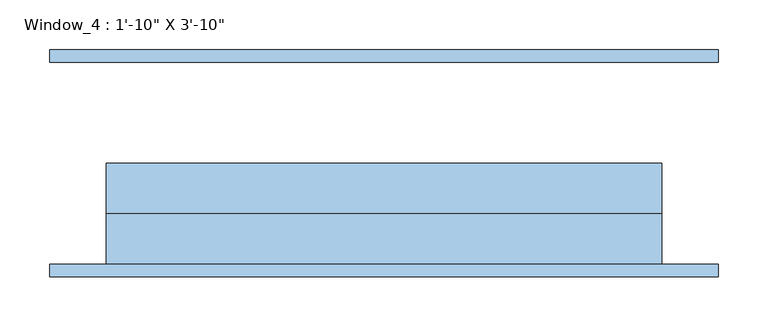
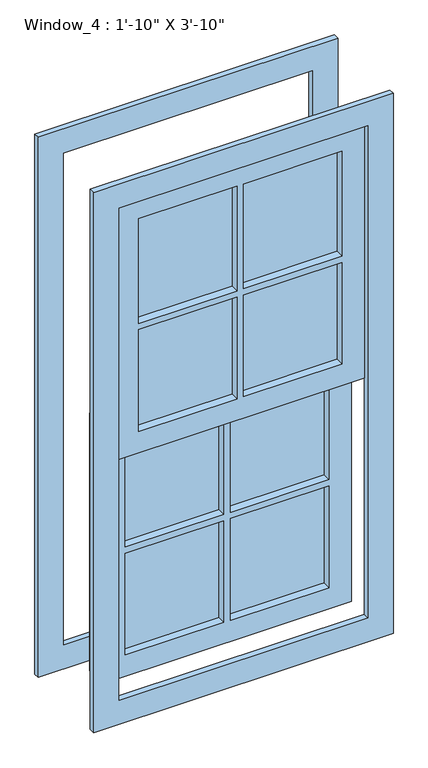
"""IFC4 building model written with IfcOpenShell, lengths in millimetres: window geometry."""

from ifc_helpers import new_model, si_unit, frame, origin, place, context, project, spatial, polyline, outline, extrude, source, transform, mapped, element, save


def window_3fe6f13e(model_context):
    return source(origin(), model_context, "Body", "SweptSolid", [
        extrude(outline(polyline([(228.6, -69.85), (228.6, -83.1353592), (7.540625, -83.1353592), (7.540625, -69.85), (228.6, -69.85)])), frame((0.0, 0.0, 1732.75625), z_axis=(0.0, 0.0, 1.0), x_axis=(1.0, 0.0, 0.0)), (0.0, 0.0, 1.0), 248.44375),
        extrude(outline(polyline([(-7.540625, -69.85), (-7.540625, -83.1353592), (-228.6, -83.1353592), (-228.6, -69.85), (-7.540625, -69.85)])), frame((0.0, 0.0, 1732.75625), z_axis=(0.0, 0.0, 1.0), x_axis=(1.0, 0.0, 0.0)), (0.0, 0.0, 1.0), 248.44375),
        extrude(outline(polyline([(228.6, -69.85), (228.6, -83.1353592), (7.540625, -83.1353592), (7.540625, -69.85), (228.6, -69.85)])), frame((0.0, 0.0, 1476.375), z_axis=(0.0, 0.0, 1.0), x_axis=(1.0, 0.0, 0.0)), (0.0, 0.0, 1.0), 241.3),
        extrude(outline(polyline([(-7.540625, -69.85), (-7.540625, -83.1353592), (-228.6, -83.1353592), (-228.6, -69.85), (-7.540625, -69.85)])), frame((0.0, 0.0, 1476.375), z_axis=(0.0, 0.0, 1.0), x_axis=(1.0, 0.0, 0.0)), (0.0, 0.0, 1.0), 241.3),
        extrude(outline(polyline([(2032.0, -279.4), (1425.575, -279.4), (1425.575, 279.4), (2032.0, 279.4), (2032.0, -279.4)]), holes=[polyline([(1981.2, 7.540625), (1981.2, 228.6), (1732.75625, 228.6), (1732.75625, 7.540625), (1981.2, 7.540625)]), polyline([(1476.375, 7.540625), (1717.675, 7.540625), (1717.675, 228.6), (1476.375, 228.6), (1476.375, 7.540625)]), polyline([(1732.75625, -228.6), (1981.2, -228.6), (1981.2, -7.540625), (1732.75625, -7.540625), (1732.75625, -228.6)]), polyline([(1476.375, -228.6), (1717.675, -228.6), (1717.675, -7.540625), (1476.375, -7.540625), (1476.375, -228.6)])]), frame((0.0, -101.6, 0.0), z_axis=(0.0, 1.0, 0.0), x_axis=(0.0, 0.0, 1.0)), (0.0, 0.0, 1.0), 50.8),
        extrude(outline(polyline([(7.540625, -31.75), (7.540625, -19.05), (228.6, -19.05), (228.6, -31.75), (7.540625, -31.75)])), frame((0.0, 0.0, 1170.78125), z_axis=(0.0, 0.0, 1.0), x_axis=(1.0, 0.0, 0.0)), (0.0, 0.0, 1.0), 254.79375),
        extrude(outline(polyline([(7.540625, -31.75), (7.540625, -19.05), (228.6, -19.05), (228.6, -31.75), (7.540625, -31.75)])), frame((0.0, 0.0, 914.4), z_axis=(0.0, 0.0, 1.0), x_axis=(1.0, 0.0, 0.0)), (0.0, 0.0, 1.0), 241.3),
        extrude(outline(polyline([(-228.6, -31.75), (-228.6, -19.05), (-7.540625, -19.05), (-7.540625, -31.75), (-228.6, -31.75)])), frame((0.0, 0.0, 1170.78125), z_axis=(0.0, 0.0, 1.0), x_axis=(1.0, 0.0, 0.0)), (0.0, 0.0, 1.0), 254.79375),
        extrude(outline(polyline([(-228.6, -31.75), (-228.6, -19.05), (-7.540625, -19.05), (-7.540625, -31.75), (-228.6, -31.75)])), frame((0.0, 0.0, 914.4), z_axis=(0.0, 0.0, 1.0), x_axis=(1.0, 0.0, 0.0)), (0.0, 0.0, 1.0), 241.3),
        extrude(outline(polyline([(1476.375, -279.4), (863.6, -279.4), (863.6, 279.4), (1476.375, 279.4), (1476.375, -279.4)]), holes=[polyline([(1170.78125, -228.6), (1425.575, -228.6), (1425.575, -7.540625), (1170.78125, -7.540625), (1170.78125, -228.6)]), polyline([(914.4, 7.540625), (1155.7, 7.540625), (1155.7, 228.6), (914.4, 228.6), (914.4, 7.540625)]), polyline([(914.4, -228.6), (1155.7, -228.6), (1155.7, -7.540625), (914.4, -7.540625), (914.4, -228.6)]), polyline([(1425.575, 7.540625), (1425.575, 228.6), (1170.78125, 228.6), (1170.78125, 7.540625), (1425.575, 7.540625)])]), frame((0.0, -50.8, 0.0), z_axis=(0.0, 1.0, 0.0), x_axis=(0.0, 0.0, 1.0)), (0.0, 0.0, 1.0), 50.8),
        extrude(outline(polyline([(806.45, 336.55), (2089.15, 336.55), (2089.15, -336.55), (806.45, -336.55), (806.45, 336.55)]), holes=[polyline([(863.6, 279.4), (863.6, -279.4), (2032.0, -279.4), (2032.0, 279.4), (863.6, 279.4)])]), frame((0.0, 101.6, 0.0), z_axis=(0.0, 1.0, 0.0), x_axis=(0.0, 0.0, 1.0)), (0.0, 0.0, 1.0), 12.7),
        extrude(outline(polyline([(806.45, 336.55), (2089.15, 336.55), (2089.15, -336.55), (806.45, -336.55), (806.45, 336.55)]), holes=[polyline([(863.6, 279.4), (863.6, -279.4), (2032.0, -279.4), (2032.0, 279.4), (863.6, 279.4)])]), frame((0.0, -114.3, 0.0), z_axis=(0.0, 1.0, 0.0), x_axis=(0.0, 0.0, 1.0)), (0.0, 0.0, 1.0), 12.7),
    ])


if __name__ == "__main__":
    model = new_model("IFC4")
    model_context = context("Model", 3, world=origin())
    ifc_project = project(units=[si_unit("LENGTHUNIT", "METRE", prefix="MILLI")], contexts=[model_context])
    site = spatial("IfcSite", under=ifc_project)
    building = spatial("IfcBuilding", under=site)
    placement = place(None, origin())
    window_shape = window_3fe6f13e(model_context)
    element("IfcWindow", 1, ObjectType="Window_4 : 1'-10\" X 3'-10\"", at=placement, inside=building, context=model_context, shape_type="MappedRepresentation", body=[
        mapped(window_shape, transform((0.0, 0.0, 0.0), x_axis=(1.0, 0.0, 0.0), y_axis=(0.0, 1.0, 0.0), z_axis=(0.0, 0.0, 1.0))),
    ])
    save(model, "model.ifc")
